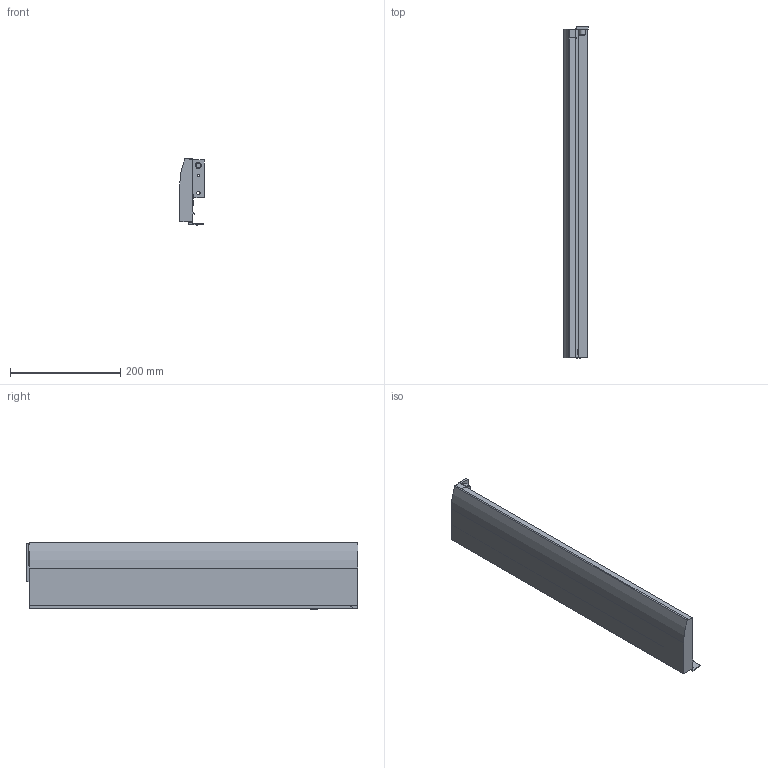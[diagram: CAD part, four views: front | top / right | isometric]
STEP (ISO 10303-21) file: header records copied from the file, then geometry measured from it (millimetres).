
FILE_DESCRIPTION (( 'STEP AP214' ), '1' );
FILE_NAME ('_IMOS_NOVA-Pro_Dekor-H122_DL_NL600_LI.step', '2010-07-14T11:02:30', ( 'grass' ), ( '' ), 'SwSTEP 2.0', 'SolidWorks 2010', '' );
FILE_SCHEMA (( 'AUTOMOTIVE_DESIGN' ));
Length unit declared in the file: millimetre
Products named in the file (1): _IMOS_NOVA-Pro_Dekor-H122_DL_NL600_LI
Bounding box: 44.3 x 602.7 x 122.49 mm (x, y, z)
Volume: 1105379.5 mm3; surface area: 245137.8 mm2
Topology: 1 solids, 1 shells, 84 faces, 227 edges, 150 vertices
Faces by surface type: plane 52, cylinder 27, cone 4, bspline 1
Entity records: 2685 total; most frequent: CARTESIAN_POINT 475, ORIENTED_EDGE 454, DIRECTION 454, EDGE_CURVE 227, LINE 164, VECTOR 164, VERTEX_POINT 150, AXIS2_PLACEMENT_3D 145
